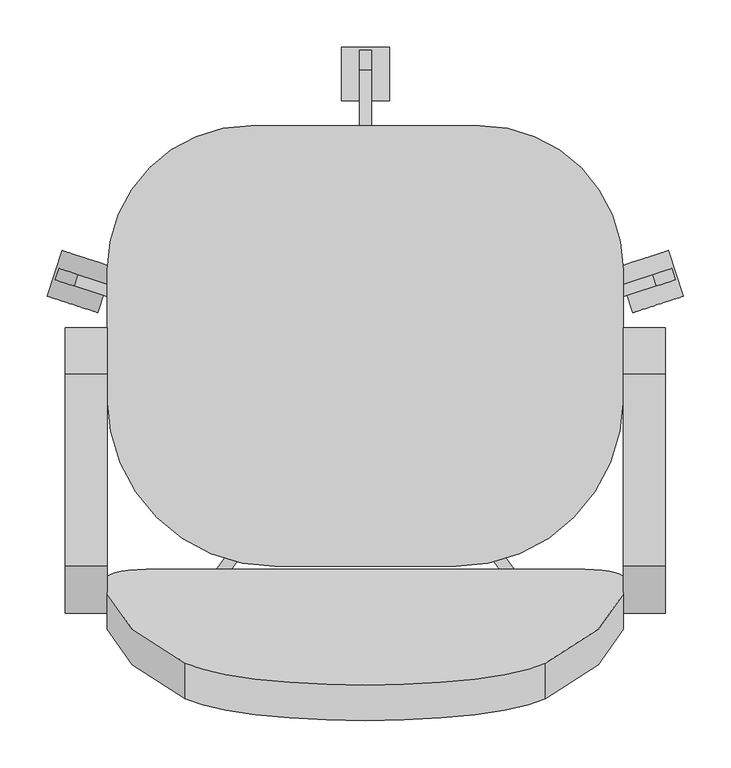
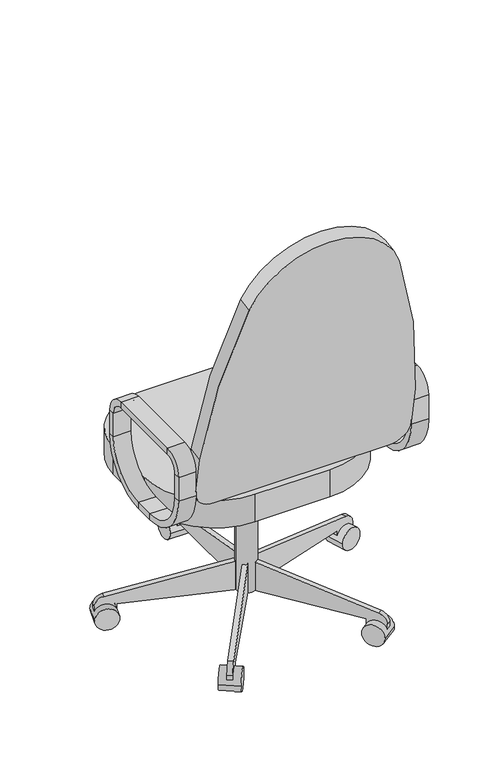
"""IFC4 building model written with IfcOpenShell, lengths in millimetres: furniture geometry, Siège - 01 : Siège - 01."""

from ifc_helpers import new_model, si_unit, point, frame, frame_2d, origin, place, context, project, spatial, polyline, circle_curve, trimmed, segment, composite_curve, outline, extrude, source, transform, mapped, element, save
from ifc_brep_helpers import plane_surface, cylinder_surface, revolved_surface, advanced_brep


def furniture_a395565c(model_context):
    return source(origin(), model_context, "Body", "SolidModel", [
        extrude(outline(composite_curve([segment(trimmed(circle_curve(frame_2d((140.9908197, 18.9459016)), 25.4), [point((115.5908197, 18.9459016))], [point((166.3908197, 18.9459016))], False, "CARTESIAN"), True, "CONTINUOUS"), segment(trimmed(circle_curve(frame_2d((140.9908197, 18.9459016)), 25.4), [point((166.3908197, 18.9459016))], [point((115.5908197, 18.9459016))], False, "CARTESIAN"), True, "CONTINUOUS")], self_intersect=False)), frame((0.0, 0.0, 53.5835944), z_axis=(0.0, 0.0, 1.0), x_axis=(1.0, 0.0, 0.0)), (0.0, 0.0, 1.0), 330.5914056),
        extrude(outline(composite_curve([segment(trimmed(circle_curve(frame_2d((0.0, -28.2002727)), 28.2002727), [point((0.0, -56.4005455))], [point((0.0, 0.0))], False, "CARTESIAN"), True, "CONTINUOUS"), segment(trimmed(circle_curve(frame_2d((0.0, -28.2002727)), 28.2002727), [point((0.0, 0.0))], [point((0.0, -56.4005455))], False, "CARTESIAN"), True, "CONTINUOUS")], self_intersect=False)), frame((323.63931, -275.6612394, 28.1835944), z_axis=(0.8090169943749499, 0.5877852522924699, 0.0), x_axis=(0.0, 0.0, 1.0)), (0.0, 0.0, 1.0), 50.8),
        extrude(outline(composite_curve([segment(polyline([(-25.4, 0.0), (0.0, 0.0), (0.0, -50.8), (-24.303053, -50.8)]), True, "CONTINUOUS"), segment(trimmed(circle_curve(frame_2d((-24.303053, -25.3999999)), 25.4), [point((-24.303053, -50.8))], [point((-49.3171699, -29.8106636))], False, "CARTESIAN"), True, "CONTINUOUS"), segment(polyline([(-49.3171699, -29.8106636), (-101.6, 266.7), (-101.6, 292.1), (-25.4, 292.1), (-25.4, 0.0)]), True, "CONTINUOUS")], self_intersect=False)), frame((307.545634, -221.1003988, 28.1835944), z_axis=(0.8090169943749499, 0.5877852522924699, 0.0), x_axis=(0.0, 0.0, -1.0)), (0.0, 0.0, 1.0), 12.7),
        extrude(outline(composite_curve([segment(trimmed(circle_curve(frame_2d((0.0, -28.2002727)), 28.2002727), [point((0.0, -56.4005455))], [point((0.0, 0.0))], False, "CARTESIAN"), True, "CONTINUOUS"), segment(trimmed(circle_curve(frame_2d((0.0, -28.2002727)), 28.2002727), [point((0.0, 0.0))], [point((0.0, -56.4005455))], False, "CARTESIAN"), True, "CONTINUOUS")], self_intersect=False)), frame((-41.6576707, -275.6612394, 28.1835944), z_axis=(-0.8090169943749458, 0.5877852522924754, 0.0), x_axis=(0.0, 0.0, -1.0)), (0.0, 0.0, 1.0), 50.8),
        extrude(outline(composite_curve([segment(polyline([(25.4, 0.0), (25.4, 292.1), (101.6, 292.1), (101.6, 266.7), (49.3171699, -29.8106637)]), True, "CONTINUOUS"), segment(trimmed(circle_curve(frame_2d((24.303053, -25.3999999)), 25.4), [point((49.3171699, -29.8106637))], [point((24.303053, -50.8))], False, "CARTESIAN"), True, "CONTINUOUS"), segment(polyline([(24.303053, -50.8), (0.0, -50.8), (0.0, 0.0), (25.4, 0.0)]), True, "CONTINUOUS")], self_intersect=False)), frame((-25.5639946, -221.1003988, 28.1835944), z_axis=(-0.8090169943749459, 0.5877852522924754, 0.0), x_axis=(0.0, 0.0, 1.0)), (0.0, 0.0, 1.0), 12.7),
        extrude(outline(polyline([(69.7459016, 383.7835944), (69.7459016, 371.0835944), (18.9459016, 283.0954134), (-19.1540984, 283.0954134), (-19.1540984, 383.7835944), (69.7459016, 383.7835944)])), frame((90.1908197, 0.0, 0.0), z_axis=(1.0, 0.0, 0.0), x_axis=(0.0, 1.0, 0.0)), (0.0, 0.0, 1.0), 101.6),
        advanced_brep(
        [(-176.5091803, -217.7873012, 546.1), (-176.5091803, -108.0540984, 436.3667972), (-176.5091803, -108.0540984, 420.4917972), (-176.5091803, -233.6623012, 546.1), (-132.0591803, -217.7873012, 546.1), (-132.0591803, -108.0540984, 436.3667972), (-132.0591803, -233.6623012, 546.1), (-132.0591803, -108.0540984, 420.4917972), (-176.5091803, -233.6623012, 609.6), (-176.5091803, -217.7873012, 609.6), (-132.0591803, -217.7873012, 609.6), (-132.0591803, -233.6623012, 609.6), (-176.5091803, -184.2540984, 643.1332028), (-176.5091803, -184.2540984, 659.0082028), (-132.0591803, -184.2540984, 643.1332028), (-132.0591803, -184.2540984, 659.0082028), (-176.5091803, 18.9459016, 659.0082028), (-176.5091803, 18.9459016, 643.1332028), (-132.0591803, 18.9459016, 643.1332028), (-132.0591803, 18.9459016, 659.0082028), (-176.5091803, 52.4791044, 609.6), (-176.5091803, 68.3541044, 609.6), (-132.0591803, 52.4791044, 609.6), (-132.0591803, 68.3541044, 609.6), (-176.5091803, 68.3541044, 546.1), (-176.5091803, 52.4791044, 546.1), (-132.0591803, 52.4791044, 546.1), (-132.0591803, 68.3541044, 546.1), (-176.5091803, -57.2540984, 436.3667972), (-176.5091803, -57.2540984, 420.4917972), (-132.0591803, -57.2540984, 436.3667972), (-132.0591803, -57.2540984, 420.4917972)],
        [
            (0, 1, circle_curve(frame((-176.5091803, -108.0540984, 546.1), z_axis=(1.0, 0.0, 0.0), x_axis=(0.0, 0.0, -1.0)), 109.7332028)),
            (1, 2),
            (2, 3, circle_curve(frame((-176.5091803, -108.0540984, 546.1), z_axis=(-1.0, 0.0, 0.0), x_axis=(0.0, 0.0, -1.0)), 125.6082028)),
            (3, 0),
            (4, 5, circle_curve(frame((-132.0591803, -108.0540984, 546.1), z_axis=(1.0, 0.0, 0.0), x_axis=(0.0, 0.0, -1.0)), 109.7332028)),
            (5, 1),
            (0, 4),
            (6, 7, circle_curve(frame((-132.0591803, -108.0540984, 546.1), z_axis=(1.0, 0.0, 0.0), x_axis=(0.0, 0.0, -1.0)), 125.6082028)),
            (7, 5),
            (4, 6),
            (2, 7),
            (6, 3),
            (3, 8),
            (8, 9),
            (9, 0),
            (9, 10),
            (10, 4),
            (10, 11),
            (11, 6),
            (11, 8),
            (12, 9, circle_curve(frame((-176.5091803, -184.2540984, 609.6), z_axis=(1.0, 0.0, 0.0), x_axis=(0.0, -1.0, 0.0)), 33.5332028)),
            (8, 13, circle_curve(frame((-176.5091803, -184.2540984, 609.6), z_axis=(-1.0, 0.0, 0.0), x_axis=(0.0, -1.0, 0.0)), 49.4082028)),
            (13, 12),
            (14, 10, circle_curve(frame((-132.0591803, -184.2540984, 609.6), z_axis=(1.0, 0.0, 0.0), x_axis=(0.0, -1.0, 0.0)), 33.5332028)),
            (12, 14),
            (15, 11, circle_curve(frame((-132.0591803, -184.2540984, 609.6), z_axis=(1.0, 0.0, 0.0), x_axis=(0.0, -1.0, 0.0)), 49.4082028)),
            (14, 15),
            (15, 13),
            (13, 16),
            (16, 17),
            (17, 12),
            (17, 18),
            (18, 14),
            (18, 19),
            (19, 15),
            (19, 16),
            (20, 17, circle_curve(frame((-176.5091803, 18.9459016, 609.6), z_axis=(1.0, 0.0, 0.0), x_axis=(0.0, 0.0, 1.0)), 33.5332028)),
            (16, 21, circle_curve(frame((-176.5091803, 18.9459016, 609.6), z_axis=(-1.0, 0.0, 0.0), x_axis=(0.0, 0.0, 1.0)), 49.4082028)),
            (21, 20),
            (22, 18, circle_curve(frame((-132.0591803, 18.9459016, 609.6), z_axis=(1.0, 0.0, 0.0), x_axis=(0.0, 0.0, 1.0)), 33.5332028)),
            (20, 22),
            (23, 19, circle_curve(frame((-132.0591803, 18.9459016, 609.6), z_axis=(1.0, 0.0, 0.0), x_axis=(0.0, 0.0, 1.0)), 49.4082028)),
            (22, 23),
            (23, 21),
            (21, 24),
            (24, 25),
            (25, 20),
            (25, 26),
            (26, 22),
            (26, 27),
            (27, 23),
            (27, 24),
            (28, 25, circle_curve(frame((-176.5091803, -57.2540984, 546.1), z_axis=(1.0, 0.0, 0.0), x_axis=(0.0, 1.0, 0.0)), 109.7332028)),
            (24, 29, circle_curve(frame((-176.5091803, -57.2540984, 546.1), z_axis=(-1.0, 0.0, 0.0), x_axis=(0.0, 1.0, 0.0)), 125.6082028)),
            (29, 28),
            (30, 26, circle_curve(frame((-132.0591803, -57.2540984, 546.1), z_axis=(1.0, 0.0, 0.0), x_axis=(0.0, 1.0, 0.0)), 109.7332028)),
            (28, 30),
            (31, 27, circle_curve(frame((-132.0591803, -57.2540984, 546.1), z_axis=(1.0, 0.0, 0.0), x_axis=(0.0, 1.0, 0.0)), 125.6082028)),
            (30, 31),
            (31, 29),
            (29, 2),
            (1, 28),
            (5, 30),
            (7, 31),
        ],
        [
            plane_surface(frame((-176.5091803, -108.0540984, 546.1), z_axis=(-1.0, 0.0, 0.0), x_axis=(0.0, 0.0, -1.0))),
            revolved_surface(polyline([(-176.5091803, -108.0540984, 436.3667972), (-132.0591803, -108.0540984, 436.3667972)]), (-132.0591803, -108.0540984, 546.1), (-1.0, 0.0, 0.0)),
            plane_surface(frame((-132.0591803, -108.0540984, 546.1), z_axis=(1.0, 0.0, 0.0), x_axis=(0.0, 0.0, -1.0))),
            cylinder_surface(frame((-132.0591803, -108.0540984, 546.1), z_axis=(-1.0, 0.0, 0.0), x_axis=(0.0, 0.0, -1.0)), 125.6082028),
            plane_surface(frame((-176.5091803, -233.6623012, 546.1), z_axis=(-1.0, 0.0, 0.0), x_axis=(0.0, 0.0, 1.0))),
            plane_surface(frame((-176.5091803, -217.7873012, 546.1), z_axis=(0.0, 1.0, 0.0), x_axis=(0.0, 0.0, 1.0))),
            plane_surface(frame((-132.0591803, -217.7873012, 546.1), z_axis=(1.0, 0.0, 0.0), x_axis=(0.0, 0.0, 1.0))),
            plane_surface(frame((-132.0591803, -233.6623012, 546.1), z_axis=(0.0, -1.0, 0.0), x_axis=(0.0, 0.0, 1.0))),
            plane_surface(frame((-176.5091803, -184.2540984, 609.6), z_axis=(-1.0, 0.0, 0.0), x_axis=(0.0, -1.0, 0.0))),
            revolved_surface(polyline([(-176.5091803, -217.7873012, 609.6), (-132.0591803, -217.7873012, 609.6)]), (-132.0591803, -184.2540984, 609.6), (-1.0, 0.0, 0.0)),
            plane_surface(frame((-132.0591803, -184.2540984, 609.6), z_axis=(1.0, 0.0, 0.0), x_axis=(0.0, -1.0, 0.0))),
            cylinder_surface(frame((-132.0591803, -184.2540984, 609.6), z_axis=(-1.0, 0.0, 0.0), x_axis=(0.0, -1.0, 0.0)), 49.4082028),
            plane_surface(frame((-176.5091803, -184.2540984, 659.0082028), z_axis=(-1.0, 0.0, 0.0), x_axis=(0.0, 1.0, 0.0))),
            plane_surface(frame((-176.5091803, -184.2540984, 643.1332028), z_axis=(0.0, 0.0, -1.0), x_axis=(0.0, 1.0, 0.0))),
            plane_surface(frame((-132.0591803, -184.2540984, 643.1332028), z_axis=(1.0, 0.0, 0.0), x_axis=(0.0, 1.0, 0.0))),
            plane_surface(frame((-132.0591803, -184.2540984, 659.0082028), z_axis=(0.0, 0.0, 1.0), x_axis=(0.0, 1.0, 0.0))),
            plane_surface(frame((-176.5091803, 18.9459016, 609.6), z_axis=(-1.0, 0.0, 0.0), x_axis=(0.0, 0.0, 1.0))),
            revolved_surface(polyline([(-176.5091803, 18.9459016, 643.1332028), (-132.0591803, 18.9459016, 643.1332028)]), (-132.0591803, 18.9459016, 609.6), (-1.0, 0.0, 0.0)),
            plane_surface(frame((-132.0591803, 18.9459016, 609.6), z_axis=(1.0, 0.0, 0.0), x_axis=(0.0, 0.0, 1.0))),
            cylinder_surface(frame((-132.0591803, 18.9459016, 609.6), z_axis=(-1.0, 0.0, 0.0), x_axis=(0.0, 0.0, 1.0)), 49.4082028),
            plane_surface(frame((-176.5091803, 68.3541044, 609.6), z_axis=(-1.0, 0.0, 0.0), x_axis=(0.0, 0.0, -1.0))),
            plane_surface(frame((-176.5091803, 52.4791044, 609.6), z_axis=(0.0, -1.0, 0.0), x_axis=(0.0, 0.0, -1.0))),
            plane_surface(frame((-132.0591803, 52.4791044, 609.6), z_axis=(1.0, 0.0, 0.0), x_axis=(0.0, 0.0, -1.0))),
            plane_surface(frame((-132.0591803, 68.3541044, 609.6), z_axis=(0.0, 1.0, 0.0), x_axis=(0.0, 0.0, -1.0))),
            plane_surface(frame((-176.5091803, -57.2540984, 546.1), z_axis=(-1.0, 0.0, 0.0), x_axis=(0.0, 1.0, 0.0))),
            revolved_surface(polyline([(-176.5091803, 52.479104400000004, 546.1), (-132.0591803, 52.479104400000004, 546.1)]), (-132.0591803, -57.2540984, 546.1), (-1.0, 0.0, 0.0)),
            plane_surface(frame((-132.0591803, -57.2540984, 546.1), z_axis=(1.0, 0.0, 0.0), x_axis=(0.0, 1.0, 0.0))),
            cylinder_surface(frame((-132.0591803, -57.2540984, 546.1), z_axis=(-1.0, 0.0, 0.0), x_axis=(0.0, 1.0, 0.0)), 125.6082028),
            plane_surface(frame((-176.5091803, -57.2540984, 420.4917972), z_axis=(-1.0, 0.0, 0.0), x_axis=(0.0, -1.0, 0.0))),
            plane_surface(frame((-176.5091803, -57.2540984, 436.3667972), z_axis=(0.0, 0.0, 1.0), x_axis=(0.0, -1.0, 0.0))),
            plane_surface(frame((-132.0591803, -57.2540984, 436.3667972), z_axis=(1.0, 0.0, 0.0), x_axis=(0.0, -1.0, 0.0))),
            plane_surface(frame((-132.0591803, -57.2540984, 420.4917972), z_axis=(0.0, 0.0, -1.0), x_axis=(0.0, -1.0, 0.0))),
        ],
        [
            (0, [[1, 2, 3, 4]]),
            (1, [[5, 6, -1, 7]]),
            (2, [[8, 9, -5, 10]]),
            (3, [[-3, 11, -8, 12]]),
            (4, [[-4, 13, 14, 15]]),
            (5, [[-7, -15, 16, 17]]),
            (6, [[-10, -17, 18, 19]]),
            (7, [[-12, -19, 20, -13]]),
            (8, [[21, -14, 22, 23]]),
            (9, [[24, -16, -21, 25]]),
            (10, [[26, -18, -24, 27]]),
            (11, [[-22, -20, -26, 28]]),
            (12, [[-23, 29, 30, 31]]),
            (13, [[-25, -31, 32, 33]]),
            (14, [[-27, -33, 34, 35]]),
            (15, [[-28, -35, 36, -29]]),
            (16, [[37, -30, 38, 39]]),
            (17, [[40, -32, -37, 41]]),
            (18, [[42, -34, -40, 43]]),
            (19, [[-38, -36, -42, 44]]),
            (20, [[-39, 45, 46, 47]]),
            (21, [[-41, -47, 48, 49]]),
            (22, [[-43, -49, 50, 51]]),
            (23, [[-44, -51, 52, -45]]),
            (24, [[53, -46, 54, 55]]),
            (25, [[56, -48, -53, 57]]),
            (26, [[58, -50, -56, 59]]),
            (27, [[-54, -52, -58, 60]]),
            (28, [[-55, 61, -2, 62]]),
            (29, [[-57, -62, -6, 63]]),
            (30, [[-59, -63, -9, 64]]),
            (31, [[-60, -64, -11, -61]]),
        ],
    ),
        advanced_brep(
        [(414.0408197, -233.6623012, 546.1), (414.0408197, -108.0540984, 420.4917972), (458.4908197, -108.0540984, 420.4917972), (458.4908197, -233.6623012, 546.1), (414.0408197, -217.7873012, 546.1), (414.0408197, -108.0540984, 436.3667972), (458.4908197, -217.7873012, 546.1), (458.4908197, -108.0540984, 436.3667972), (458.4908197, -233.6623012, 609.6), (414.0408197, -233.6623012, 609.6), (414.0408197, -217.7873012, 609.6), (458.4908197, -217.7873012, 609.6), (414.0408197, -184.2540984, 659.0082028), (458.4908197, -184.2540984, 659.0082028), (414.0408197, -184.2540984, 643.1332028), (458.4908197, -184.2540984, 643.1332028), (458.4908197, 18.9459016, 659.0082028), (414.0408197, 18.9459016, 659.0082028), (414.0408197, 18.9459016, 643.1332028), (458.4908197, 18.9459016, 643.1332028), (414.0408197, 68.3541044, 609.6), (458.4908197, 68.3541044, 609.6), (414.0408197, 52.4791044, 609.6), (458.4908197, 52.4791044, 609.6), (458.4908197, 68.3541044, 546.1), (414.0408197, 68.3541044, 546.1), (414.0408197, 52.4791044, 546.1), (458.4908197, 52.4791044, 546.1), (414.0408197, -57.2540984, 420.4917972), (458.4908197, -57.2540984, 420.4917972), (414.0408197, -57.2540984, 436.3667972), (458.4908197, -57.2540984, 436.3667972)],
        [
            (0, 1, circle_curve(frame((414.0408197, -108.0540984, 546.1), z_axis=(1.0, 0.0, 0.0), x_axis=(0.0, 0.0, -1.0)), 125.6082028)),
            (1, 2),
            (2, 3, circle_curve(frame((458.4908197, -108.0540984, 546.1), z_axis=(-1.0, 0.0, 0.0), x_axis=(0.0, 0.0, -1.0)), 125.6082028)),
            (3, 0),
            (4, 5, circle_curve(frame((414.0408197, -108.0540984, 546.1), z_axis=(1.0, 0.0, 0.0), x_axis=(0.0, 0.0, -1.0)), 109.7332028)),
            (5, 1),
            (0, 4),
            (6, 7, circle_curve(frame((458.4908197, -108.0540984, 546.1), z_axis=(1.0, 0.0, 0.0), x_axis=(0.0, 0.0, -1.0)), 109.7332028)),
            (7, 5),
            (4, 6),
            (2, 7),
            (6, 3),
            (3, 8),
            (8, 9),
            (9, 0),
            (9, 10),
            (10, 4),
            (10, 11),
            (11, 6),
            (11, 8),
            (12, 9, circle_curve(frame((414.0408197, -184.2540984, 609.6), z_axis=(1.0, 0.0, 0.0), x_axis=(0.0, -1.0, 0.0)), 49.4082028)),
            (8, 13, circle_curve(frame((458.4908197, -184.2540984, 609.6), z_axis=(-1.0, 0.0, 0.0), x_axis=(0.0, -1.0, 0.0)), 49.4082028)),
            (13, 12),
            (14, 10, circle_curve(frame((414.0408197, -184.2540984, 609.6), z_axis=(1.0, 0.0, 0.0), x_axis=(0.0, -1.0, 0.0)), 33.5332028)),
            (12, 14),
            (15, 11, circle_curve(frame((458.4908197, -184.2540984, 609.6), z_axis=(1.0, 0.0, 0.0), x_axis=(0.0, -1.0, 0.0)), 33.5332028)),
            (14, 15),
            (15, 13),
            (13, 16),
            (16, 17),
            (17, 12),
            (17, 18),
            (18, 14),
            (18, 19),
            (19, 15),
            (19, 16),
            (20, 17, circle_curve(frame((414.0408197, 18.9459016, 609.6), z_axis=(1.0, 0.0, 0.0), x_axis=(0.0, 0.0, 1.0)), 49.4082028)),
            (16, 21, circle_curve(frame((458.4908197, 18.9459016, 609.6), z_axis=(-1.0, 0.0, 0.0), x_axis=(0.0, 0.0, 1.0)), 49.4082028)),
            (21, 20),
            (22, 18, circle_curve(frame((414.0408197, 18.9459016, 609.6), z_axis=(1.0, 0.0, 0.0), x_axis=(0.0, 0.0, 1.0)), 33.5332028)),
            (20, 22),
            (23, 19, circle_curve(frame((458.4908197, 18.9459016, 609.6), z_axis=(1.0, 0.0, 0.0), x_axis=(0.0, 0.0, 1.0)), 33.5332028)),
            (22, 23),
            (23, 21),
            (21, 24),
            (24, 25),
            (25, 20),
            (25, 26),
            (26, 22),
            (26, 27),
            (27, 23),
            (27, 24),
            (28, 25, circle_curve(frame((414.0408197, -57.2540984, 546.1), z_axis=(1.0, 0.0, 0.0), x_axis=(0.0, 1.0, 0.0)), 125.6082028)),
            (24, 29, circle_curve(frame((458.4908197, -57.2540984, 546.1), z_axis=(-1.0, 0.0, 0.0), x_axis=(0.0, 1.0, 0.0)), 125.6082028)),
            (29, 28),
            (30, 26, circle_curve(frame((414.0408197, -57.2540984, 546.1), z_axis=(1.0, 0.0, 0.0), x_axis=(0.0, 1.0, 0.0)), 109.7332028)),
            (28, 30),
            (31, 27, circle_curve(frame((458.4908197, -57.2540984, 546.1), z_axis=(1.0, 0.0, 0.0), x_axis=(0.0, 1.0, 0.0)), 109.7332028)),
            (30, 31),
            (31, 29),
            (29, 2),
            (1, 28),
            (5, 30),
            (7, 31),
        ],
        [
            cylinder_surface(frame((414.0408197, -108.0540984, 546.1), z_axis=(-1.0, 0.0, 0.0), x_axis=(0.0, 0.0, -1.0)), 125.6082028),
            plane_surface(frame((414.0408197, -108.0540984, 546.1), z_axis=(-1.0, 0.0, 0.0), x_axis=(0.0, 0.0, -1.0))),
            revolved_surface(polyline([(414.0408197, -108.0540984, 436.3667972), (458.4908197, -108.0540984, 436.3667972)]), (414.0408197, -108.0540984, 546.1), (-1.0, 0.0, 0.0)),
            plane_surface(frame((458.4908197, -108.0540984, 546.1), z_axis=(1.0, 0.0, 0.0), x_axis=(0.0, 0.0, -1.0))),
            plane_surface(frame((458.4908197, -233.6623012, 546.1), z_axis=(0.0, -1.0, 0.0), x_axis=(0.0, 0.0, 1.0))),
            plane_surface(frame((414.0408197, -233.6623012, 546.1), z_axis=(-1.0, 0.0, 0.0), x_axis=(0.0, 0.0, 1.0))),
            plane_surface(frame((414.0408197, -217.7873012, 546.1), z_axis=(0.0, 1.0, 0.0), x_axis=(0.0, 0.0, 1.0))),
            plane_surface(frame((458.4908197, -217.7873012, 546.1), z_axis=(1.0, 0.0, 0.0), x_axis=(0.0, 0.0, 1.0))),
            cylinder_surface(frame((414.0408197, -184.2540984, 609.6), z_axis=(-1.0, 0.0, 0.0), x_axis=(0.0, -1.0, 0.0)), 49.4082028),
            plane_surface(frame((414.0408197, -184.2540984, 609.6), z_axis=(-1.0, 0.0, 0.0), x_axis=(0.0, -1.0, 0.0))),
            revolved_surface(polyline([(414.0408197, -217.7873012, 609.6), (458.4908197, -217.7873012, 609.6)]), (414.0408197, -184.2540984, 609.6), (-1.0, 0.0, 0.0)),
            plane_surface(frame((458.4908197, -184.2540984, 609.6), z_axis=(1.0, 0.0, 0.0), x_axis=(0.0, -1.0, 0.0))),
            plane_surface(frame((458.4908197, -184.2540984, 659.0082028), z_axis=(0.0, 0.0, 1.0), x_axis=(0.0, 1.0, 0.0))),
            plane_surface(frame((414.0408197, -184.2540984, 659.0082028), z_axis=(-1.0, 0.0, 0.0), x_axis=(0.0, 1.0, 0.0))),
            plane_surface(frame((414.0408197, -184.2540984, 643.1332028), z_axis=(0.0, 0.0, -1.0), x_axis=(0.0, 1.0, 0.0))),
            plane_surface(frame((458.4908197, -184.2540984, 643.1332028), z_axis=(1.0, 0.0, 0.0), x_axis=(0.0, 1.0, 0.0))),
            cylinder_surface(frame((414.0408197, 18.9459016, 609.6), z_axis=(-1.0, 0.0, 0.0), x_axis=(0.0, 0.0, 1.0)), 49.4082028),
            plane_surface(frame((414.0408197, 18.9459016, 609.6), z_axis=(-1.0, 0.0, 0.0), x_axis=(0.0, 0.0, 1.0))),
            revolved_surface(polyline([(414.0408197, 18.9459016, 643.1332028), (458.4908197, 18.9459016, 643.1332028)]), (414.0408197, 18.9459016, 609.6), (-1.0, 0.0, 0.0)),
            plane_surface(frame((458.4908197, 18.9459016, 609.6), z_axis=(1.0, 0.0, 0.0), x_axis=(0.0, 0.0, 1.0))),
            plane_surface(frame((458.4908197, 68.3541044, 609.6), z_axis=(0.0, 1.0, 0.0), x_axis=(0.0, 0.0, -1.0))),
            plane_surface(frame((414.0408197, 68.3541044, 609.6), z_axis=(-1.0, 0.0, 0.0), x_axis=(0.0, 0.0, -1.0))),
            plane_surface(frame((414.0408197, 52.4791044, 609.6), z_axis=(0.0, -1.0, 0.0), x_axis=(0.0, 0.0, -1.0))),
            plane_surface(frame((458.4908197, 52.4791044, 609.6), z_axis=(1.0, 0.0, 0.0), x_axis=(0.0, 0.0, -1.0))),
            cylinder_surface(frame((414.0408197, -57.2540984, 546.1), z_axis=(-1.0, 0.0, 0.0), x_axis=(0.0, 1.0, 0.0)), 125.6082028),
            plane_surface(frame((414.0408197, -57.2540984, 546.1), z_axis=(-1.0, 0.0, 0.0), x_axis=(0.0, 1.0, 0.0))),
            revolved_surface(polyline([(414.0408197, 52.479104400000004, 546.1), (458.4908197, 52.479104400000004, 546.1)]), (414.0408197, -57.2540984, 546.1), (-1.0, 0.0, 0.0)),
            plane_surface(frame((458.4908197, -57.2540984, 546.1), z_axis=(1.0, 0.0, 0.0), x_axis=(0.0, 1.0, 0.0))),
            plane_surface(frame((458.4908197, -57.2540984, 420.4917972), z_axis=(0.0, 0.0, -1.0), x_axis=(0.0, -1.0, 0.0))),
            plane_surface(frame((414.0408197, -57.2540984, 420.4917972), z_axis=(-1.0, 0.0, 0.0), x_axis=(0.0, -1.0, 0.0))),
            plane_surface(frame((414.0408197, -57.2540984, 436.3667972), z_axis=(0.0, 0.0, 1.0), x_axis=(0.0, -1.0, 0.0))),
            plane_surface(frame((458.4908197, -57.2540984, 436.3667972), z_axis=(1.0, 0.0, 0.0), x_axis=(0.0, -1.0, 0.0))),
        ],
        [
            (0, [[1, 2, 3, 4]]),
            (1, [[5, 6, -1, 7]]),
            (2, [[8, 9, -5, 10]]),
            (3, [[-3, 11, -8, 12]]),
            (4, [[-4, 13, 14, 15]]),
            (5, [[-7, -15, 16, 17]]),
            (6, [[-10, -17, 18, 19]]),
            (7, [[-12, -19, 20, -13]]),
            (8, [[21, -14, 22, 23]]),
            (9, [[24, -16, -21, 25]]),
            (10, [[26, -18, -24, 27]]),
            (11, [[-22, -20, -26, 28]]),
            (12, [[-23, 29, 30, 31]]),
            (13, [[-25, -31, 32, 33]]),
            (14, [[-27, -33, 34, 35]]),
            (15, [[-28, -35, 36, -29]]),
            (16, [[37, -30, 38, 39]]),
            (17, [[40, -32, -37, 41]]),
            (18, [[42, -34, -40, 43]]),
            (19, [[-38, -36, -42, 44]]),
            (20, [[-39, 45, 46, 47]]),
            (21, [[-41, -47, 48, 49]]),
            (22, [[-43, -49, 50, 51]]),
            (23, [[-44, -51, 52, -45]]),
            (24, [[53, -46, 54, 55]]),
            (25, [[56, -48, -53, 57]]),
            (26, [[58, -50, -56, 59]]),
            (27, [[-54, -52, -58, 60]]),
            (28, [[-55, 61, -2, 62]]),
            (29, [[-57, -62, -6, 63]]),
            (30, [[-59, -63, -9, 64]]),
            (31, [[-60, -64, -11, -61]]),
        ],
    ),
        extrude(outline(composite_curve([segment(trimmed(circle_curve(frame_2d((0.0, -50.8)), 50.8), [point((0.0, 0.0))], [point((50.8, -50.8))], False, "CARTESIAN"), True, "CONTINUOUS"), segment(polyline([(50.8, -50.8), (50.8, -152.4)]), True, "CONTINUOUS"), segment(trimmed(circle_curve(frame_2d((-1471.2021854, -74.3913617)), 1524.0), [point((50.8, -152.4))], [point((-31.75, -574.9444618))], False, "CARTESIAN"), True, "CONTINUOUS"), segment(trimmed(circle_curve(frame_2d((-222.25, -504.2338544)), 203.2), [point((-31.75, -574.9444618))], [point((-412.75, -574.9444618))], False, "CARTESIAN"), True, "CONTINUOUS"), segment(trimmed(circle_curve(frame_2d((1026.7021854, -74.3913617)), 1524.0), [point((-412.75, -574.9444618))], [point((-495.3, -152.4))], False, "CARTESIAN"), True, "CONTINUOUS"), segment(polyline([(-495.3, -152.4), (-495.3, -50.8)]), True, "CONTINUOUS"), segment(trimmed(circle_curve(frame_2d((-444.5, -50.8)), 50.8), [point((-495.3, -50.8))], [point((-444.5, 0.0))], False, "CARTESIAN"), True, "CONTINUOUS"), segment(polyline([(-444.5, 0.0), (0.0, 0.0)]), True, "CONTINUOUS")], self_intersect=False)), frame((363.2408197, -224.5698964, 503.1641822), z_axis=(0.0, 0.9848077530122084, 0.17364817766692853), x_axis=(1.0, 0.0, 0.0)), (0.0, 0.0, 1.0), 38.1),
        extrude(outline(composite_curve([segment(trimmed(circle_curve(frame_2d((20.3408197, 129.4961016)), 152.4), [point((-132.0591803, 129.4961016))], [point((20.3408197, 281.8961016))], False, "CARTESIAN"), True, "CONTINUOUS"), segment(polyline([(20.3408197, 281.8961016), (261.6408197, 281.8961016)]), True, "CONTINUOUS"), segment(trimmed(circle_curve(frame_2d((261.6408197, 129.4961016)), 152.4), [point((261.6408197, 281.8961016))], [point((414.0408197, 129.4961016))], False, "CARTESIAN"), True, "CONTINUOUS"), segment(polyline([(414.0408197, 129.4961016), (414.0408197, -6.4540984)]), True, "CONTINUOUS"), segment(trimmed(circle_curve(frame_2d((236.2408197, -6.4540984)), 177.8), [point((414.0408197, -6.4540984))], [point((236.2408197, -184.2540984))], False, "CARTESIAN"), True, "CONTINUOUS"), segment(polyline([(236.2408197, -184.2540984), (45.7408197, -184.2540984)]), True, "CONTINUOUS"), segment(trimmed(circle_curve(frame_2d((45.7408197, -6.4540984)), 177.8), [point((45.7408197, -184.2540984))], [point((-132.0591803, -6.4540984))], False, "CARTESIAN"), True, "CONTINUOUS"), segment(polyline([(-132.0591803, -6.4540984), (-132.0591803, 129.4961016)]), True, "CONTINUOUS")], self_intersect=False)), frame((0.0, 0.0, 383.7835944), z_axis=(0.0, 0.0, 1.0), x_axis=(1.0, 0.0, 0.0)), (0.0, 0.0, 1.0), 73.4164056),
        extrude(outline(composite_curve([segment(trimmed(circle_curve(frame_2d((0.0, -28.2002727)), 28.2002727), [point((0.0, -56.4005455))], [point((0.0, 0.0))], False, "CARTESIAN"), True, "CONTINUOUS"), segment(trimmed(circle_curve(frame_2d((0.0, -28.2002727)), 28.2002727), [point((0.0, 0.0))], [point((0.0, -56.4005455))], False, "CARTESIAN"), True, "CONTINUOUS")], self_intersect=False)), frame((477.6203484, 101.6163254, 28.1835944), z_axis=(-0.3090169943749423, 0.9510565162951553, 0.0), x_axis=(0.0, 0.0, 1.0)), (0.0, 0.0, 1.0), 50.8),
        extrude(outline(composite_curve([segment(polyline([(-25.4, 0.0), (0.0, 0.0), (0.0, -50.8), (-24.303053, -50.8)]), True, "CONTINUOUS"), segment(trimmed(circle_curve(frame_2d((-24.303053, -25.4)), 25.4), [point((-24.303053, -50.8))], [point((-49.3171699, -29.8106637))], False, "CARTESIAN"), True, "CONTINUOUS"), segment(polyline([(-49.3171699, -29.8106637), (-101.6, 266.7), (-101.6, 292.1), (-25.4, 292.1), (-25.4, 0.0)]), True, "CONTINUOUS")], self_intersect=False)), frame((420.756686, 103.1705568, 28.1835944), z_axis=(-0.3090169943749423, 0.9510565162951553, 0.0), x_axis=(0.0, 0.0, -1.0)), (0.0, 0.0, 1.0), 12.7),
        extrude(outline(composite_curve([segment(trimmed(circle_curve(frame_2d((0.0, -28.2002727)), 28.2002727), [point((0.0, -56.4005454))], [point((0.0, 0.0))], False, "CARTESIAN"), True, "CONTINUOUS"), segment(trimmed(circle_curve(frame_2d((0.0, -28.2002727)), 28.2002727), [point((0.0, 0.0))], [point((0.0, -56.4005454))], False, "CARTESIAN"), True, "CONTINUOUS")], self_intersect=False)), frame((-195.638709, 101.6163254, 28.1835944), z_axis=(0.3090169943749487, 0.9510565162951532, 0.0), x_axis=(0.0, 0.0, -1.0)), (0.0, 0.0, 1.0), 50.8),
        extrude(outline(composite_curve([segment(polyline([(25.4, 0.0), (25.4, 292.1000001), (101.6, 292.1000001), (101.6, 266.7), (49.3171699, -29.8106636)]), True, "CONTINUOUS"), segment(trimmed(circle_curve(frame_2d((24.303053, -25.4)), 25.4), [point((49.3171699, -29.8106636))], [point((24.303053, -50.8))], False, "CARTESIAN"), True, "CONTINUOUS"), segment(polyline([(24.303053, -50.8), (0.0, -50.8), (0.0, 0.0), (25.4, 0.0)]), True, "CONTINUOUS")], self_intersect=False)), frame((-138.7750467, 103.1705568, 28.1835944), z_axis=(0.3090169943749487, 0.9510565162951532, 0.0), x_axis=(0.0, 0.0, 1.0)), (0.0, 0.0, 1.0), 12.7),
        extrude(outline(composite_curve([segment(trimmed(circle_curve(frame_2d((336.4459016, 28.1835944)), 28.2002727), [point((308.2456289, 28.1835944))], [point((364.6461744, 28.1835944))], False, "CARTESIAN"), True, "CONTINUOUS"), segment(trimmed(circle_curve(frame_2d((336.4459016, 28.1835944)), 28.2002727), [point((364.6461744, 28.1835944))], [point((308.2456289, 28.1835944))], False, "CARTESIAN"), True, "CONTINUOUS")], self_intersect=False)), frame((115.5908197, 0.0, 0.0), z_axis=(1.0, 0.0, 0.0), x_axis=(0.0, 1.0, 0.0)), (0.0, 0.0, 1.0), 50.8),
        extrude(outline(composite_curve([segment(polyline([(311.0459016, 53.5835944), (18.9459016, 53.5835944), (18.9459016, 129.7835944), (44.3459016, 129.7835944), (340.8565654, 77.5007643)]), True, "CONTINUOUS"), segment(trimmed(circle_curve(frame_2d((336.4459016, 52.4866474)), 25.4), [point((340.8565654, 77.5007643))], [point((361.8459016, 52.4866474))], False, "CARTESIAN"), True, "CONTINUOUS"), segment(polyline([(361.8459016, 52.4866474), (361.8459016, 28.1835944), (311.0459016, 28.1835944), (311.0459016, 53.5835944)]), True, "CONTINUOUS")], self_intersect=False)), frame((134.6408197, 0.0, 0.0), z_axis=(1.0, 0.0, 0.0), x_axis=(0.0, 1.0, 0.0)), (0.0, 0.0, 1.0), 12.7),
    ])


if __name__ == "__main__":
    model = new_model("IFC4")
    model_context = context("Model", 3, world=origin())
    ifc_project = project(units=[si_unit("LENGTHUNIT", "METRE", prefix="MILLI")], contexts=[model_context])
    site = spatial("IfcSite", under=ifc_project)
    building = spatial("IfcBuilding", under=site)
    placement = place(None, origin())
    furniture_shape = furniture_a395565c(model_context)
    element("IfcFurniture", 1, ObjectType="Siège - 01 : Siège - 01", at=placement, inside=building, context=model_context, shape_type="MappedRepresentation", body=[
        mapped(furniture_shape, transform((0.0, 0.0, 0.0), x_axis=(1.0, 0.0, 0.0), y_axis=(0.0, 1.0, 0.0), z_axis=(0.0, 0.0, 1.0))),
    ])
    save(model, "model.ifc")
